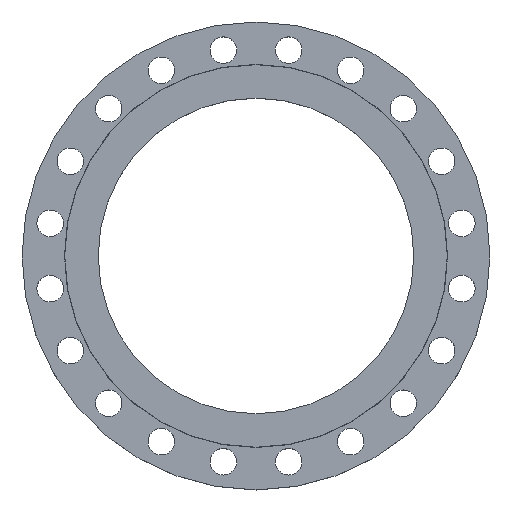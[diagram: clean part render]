
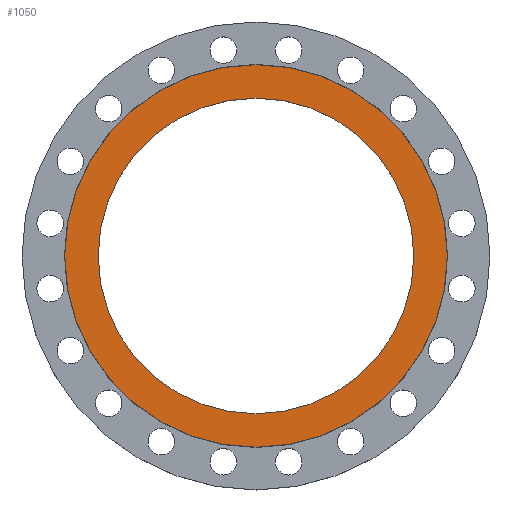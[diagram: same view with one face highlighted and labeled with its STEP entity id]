
A CAD part, top view. The second image highlights one B-rep face of the part: STEP entity #1050.
In plain terms, the highlighted planar face has unit normal (0, 0, 1).
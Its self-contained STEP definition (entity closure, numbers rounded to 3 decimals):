
#225 = CARTESIAN_POINT ( 'NONE',  ( 231., 0., 0. ) ) ;
#286 = CARTESIAN_POINT ( 'NONE',  ( -231., 0., 0. ) ) ;
#348 = CIRCLE ( 'NONE', #1621, 231. ) ;
#387 = DIRECTION ( 'NONE',  ( -1., 0., 0. ) ) ;
#389 = DIRECTION ( 'NONE',  ( 0., 0., -1. ) ) ;
#390 = CARTESIAN_POINT ( 'NONE',  ( 0., 0., 0. ) ) ;
#423 = CIRCLE ( 'NONE', #1667, 231. ) ;
#462 = CARTESIAN_POINT ( 'NONE',  ( -280., 0., 0. ) ) ;
#464 = CIRCLE ( 'NONE', #1685, 280. ) ;
#467 = EDGE_CURVE ( 'NONE', #1534, #1452, #348, .T. ) ;
#481 = CARTESIAN_POINT ( 'NONE',  ( 280., 0., 0. ) ) ;
#515 = EDGE_CURVE ( 'NONE', #1452, #1534, #423, .T. ) ;
#532 = DIRECTION ( 'NONE',  ( 1., 0., 0. ) ) ;
#533 = DIRECTION ( 'NONE',  ( 0., 0., 1. ) ) ;
#536 = CARTESIAN_POINT ( 'NONE',  ( 0., 0., 0. ) ) ;
#537 = PLANE ( 'NONE',  #936 ) ;
#538 = FACE_OUTER_BOUND ( 'NONE', #1571, .T. ) ;
#539 = FACE_BOUND ( 'NONE', #1462, .T. ) ;
#698 = DIRECTION ( 'NONE',  ( -1., 0., 0. ) ) ;
#701 = DIRECTION ( 'NONE',  ( 0., 0., -1. ) ) ;
#702 = CARTESIAN_POINT ( 'NONE',  ( 0., 0., 0. ) ) ;
#796 = EDGE_CURVE ( 'NONE', #1255, #1213, #815, .T. ) ;
#815 = CIRCLE ( 'NONE', #1760, 280. ) ;
#910 = DIRECTION ( 'NONE',  ( -1., 0., 0. ) ) ;
#911 = DIRECTION ( 'NONE',  ( 0., 0., -1. ) ) ;
#913 = CARTESIAN_POINT ( 'NONE',  ( 0., 0., 0. ) ) ;
#936 = AXIS2_PLACEMENT_3D ( 'NONE', #536, #533, #532 ) ;
#942 = DIRECTION ( 'NONE',  ( -1., 0., 0. ) ) ;
#943 = DIRECTION ( 'NONE',  ( 0., 0., -1. ) ) ;
#945 = CARTESIAN_POINT ( 'NONE',  ( 0., 0., 0. ) ) ;
#1050 = ADVANCED_FACE ( 'NONE', ( #539, #538 ), #537, .T. ) ;
#1213 = VERTEX_POINT ( 'NONE', #481 ) ;
#1255 = VERTEX_POINT ( 'NONE', #462 ) ;
#1281 = ORIENTED_EDGE ( 'NONE', *, *, #1337, .F. ) ;
#1282 = ORIENTED_EDGE ( 'NONE', *, *, #796, .F. ) ;
#1283 = ORIENTED_EDGE ( 'NONE', *, *, #467, .T. ) ;
#1284 = ORIENTED_EDGE ( 'NONE', *, *, #515, .T. ) ;
#1337 = EDGE_CURVE ( 'NONE', #1213, #1255, #464, .T. ) ;
#1452 = VERTEX_POINT ( 'NONE', #286 ) ;
#1462 = EDGE_LOOP ( 'NONE', ( #1284, #1283 ) ) ;
#1534 = VERTEX_POINT ( 'NONE', #225 ) ;
#1571 = EDGE_LOOP ( 'NONE', ( #1282, #1281 ) ) ;
#1621 = AXIS2_PLACEMENT_3D ( 'NONE', #945, #943, #942 ) ;
#1667 = AXIS2_PLACEMENT_3D ( 'NONE', #913, #911, #910 ) ;
#1685 = AXIS2_PLACEMENT_3D ( 'NONE', #390, #389, #387 ) ;
#1760 = AXIS2_PLACEMENT_3D ( 'NONE', #702, #701, #698 ) ;
